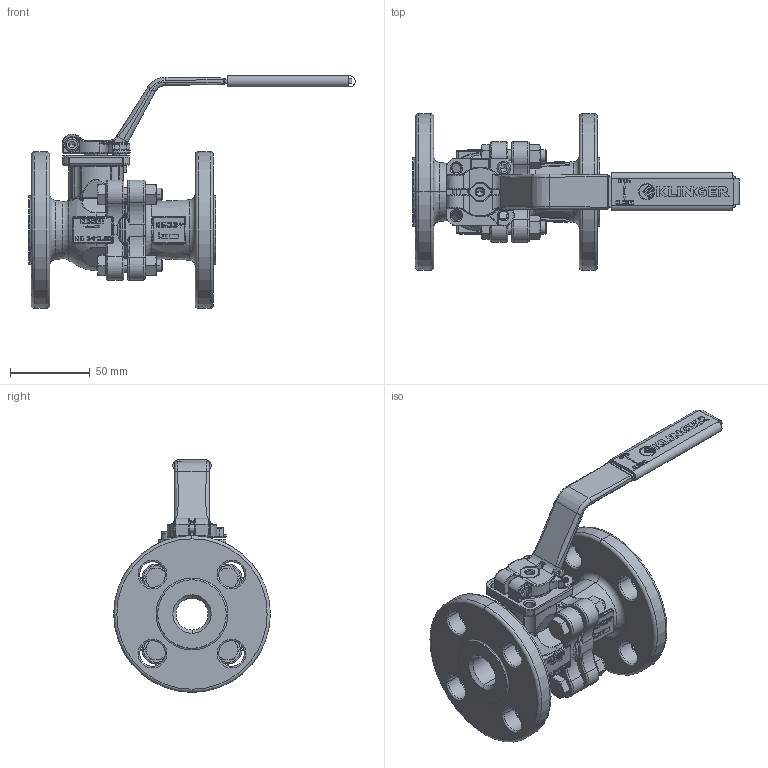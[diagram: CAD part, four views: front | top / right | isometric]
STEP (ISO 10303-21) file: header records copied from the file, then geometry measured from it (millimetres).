
FILE_DESCRIPTION((''),'2;1');
FILE_NAME('KHECL-34-C150_XC','2017-01-30T',('santag'),('RAND'),'PRO/ENGINEER BY PARAMETRIC TECHNOLOGY CORPORATION, 2016100','PRO/ENGINEER BY PARAMETRIC TECHNOLOGY CORPORATION, 2016100','');
FILE_SCHEMA(('CONFIG_CONTROL_DESIGN'));
Products named in the file (1): KHECL-34-C150_XC
Bounding box: 204 x 98 x 145.55 mm (x, y, z)
Volume: 333759.1 mm3; surface area: 107684.2 mm2
Topology: 1 solids, 1 shells, 3231 faces, 8332 edges, 5223 vertices
Faces by surface type: plane 1850, cylinder 489, bspline 339, torus 320, cone 191, sphere 42
Entity records: 128753 total; most frequent: CARTESIAN_POINT 51939, ORIENTED_EDGE 16632, DIRECTION 15077, EDGE_CURVE 8316, VECTOR 5361, LINE 5361, VERTEX_POINT 5223, AXIS2_PLACEMENT_3D 4858
